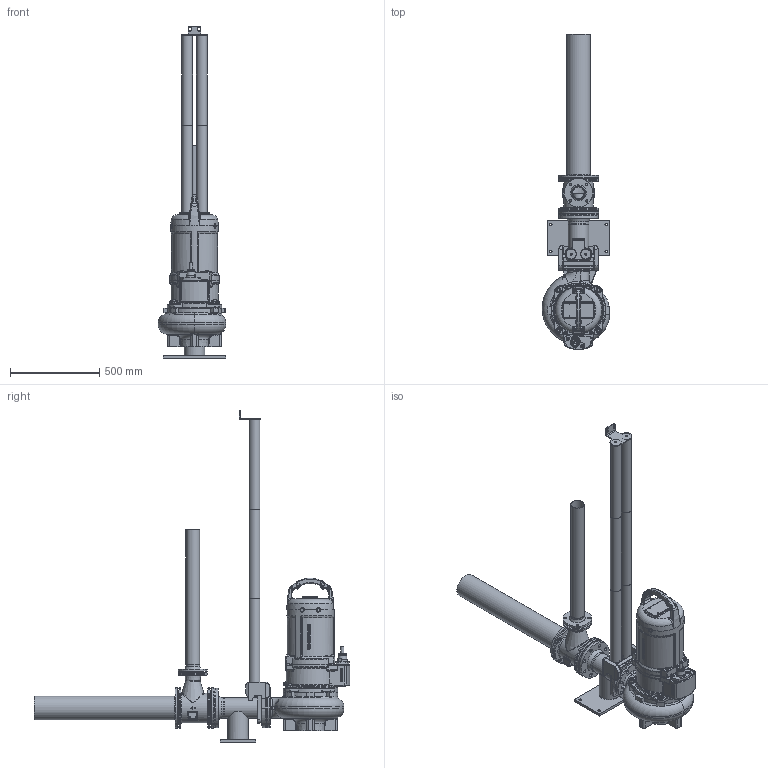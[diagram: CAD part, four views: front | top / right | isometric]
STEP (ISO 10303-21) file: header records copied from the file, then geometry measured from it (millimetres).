
FILE_DESCRIPTION(/* description */ (''),/* implementation_level */ '2;1');
FILE_NAME(/* name */ 'H:\3D\Projekte\@Wirbeljet\700 Amajet_2021_step\Amajet_V_Rail_KA_16.stp',/* time_stamp */ '2021-04-12T22:44:25+02:00',/* author */ ('emmrpat'),/* organization */ (''),/* preprocessor_version */ 'ST-DEVELOPER v18',/* originating_system */ 'Autodesk Inventor 2020',/* authorisation */ '');
FILE_SCHEMA (('AUTOMOTIVE_DESIGN { 1 0 10303 214 3 1 1 }'));
Length unit declared in the file: millimetre
Products named in the file (33): Amajet_V_Rail_KA_13; Dichtung1_DN100_5mm; Flansch_0W308059; 0W308365_Vari_01_Duese; Strahlrohr_133mm_800mm; 0W308365_Vari_01_Duese_1; Dichtung_DN100_5mm; Dichtung_DN65_4mm_110; 0W308366_800mm_Belueftung; 0W308366_800mm_Rohr; Vorschweißflansch_DN65_PN6; 0W382247_Mischkammer; Halterung KRT100-; KRT_100-250; UG155595214_01; ug1004874zmn001_01; ug1004383zmn001_01; ug1510147zmk001_01_BODY; ug1510095zmk001_01; ug1510137zmk001_01; ug1510136zmk001_01; ug1510110zmk001_01; UG154735011ZMM001_02; UG153885001ZMM001_01; ug1012584zmn001_01; ug1002091zmn001_01; UG154911611ZMM001_04; ISO 4032 - M16; ISO 7089 -  16; DIN 835 - M16 x 50; VX-Stuetzfuss_Stange; Konsole_Stange_82mm_einzeln; Rohr_Stangenfuehrung_500mm
Assembly tree (62 placements, depth 4):
  Amajet_V_Rail_KA_13
    Dichtung1_DN100_5mm
    Flansch_0W308059
    Dichtung_DN100_5mm  x2
    0W308365_Vari_01_Duese
    Strahlrohr_133mm_800mm
    0W308365_Vari_01_Duese_1
    Dichtung_DN65_4mm_110
    0W308366_800mm_Belueftung
      0W308366_800mm_Rohr
      Vorschweißflansch_DN65_PN6
    0W382247_Mischkammer
    Halterung KRT100-
    KRT_100-250
    UG155595214_01
      ug1004874zmn001_01  x4
      ug1004383zmn001_01  x2
      ug1510147zmk001_01_BODY
        ug1510095zmk001_01
        ug1510137zmk001_01  x12
        ug1510136zmk001_01
        ug1510110zmk001_01
      UG154735011ZMM001_02
      UG153885001ZMM001_01
      ug1012584zmn001_01
      ug1002091zmn001_01
      UG154911611ZMM001_04
      ISO 4032 - M16  x4
      ISO 7089 -  16  x4
      DIN 835 - M16 x 50  x4
    VX-Stuetzfuss_Stange
    Rohr_Stangenfuehrung_500mm  x6
    Konsole_Stange_82mm_einzeln
Bounding box: 378.15 x 1763.2 x 1857.15 mm (x, y, z)
Volume: 25650363.7 mm3; surface area: 6000586 mm2
Topology: 68 solids, 69 shells, 3012 faces, 7391 edges, 4537 vertices
Faces by surface type: plane 890, cylinder 867, bspline 688, torus 329, cone 142, sphere 96
Full cylindrical faces by diameter (mm): 3 x12, 3.05 x2, 3.3 x1, 4 x12, 5 x12, 6 x12, 6.8 x1, 7 x24, 8 x4, 8.5 x6, 10 x6, 11 x6, 12 x10, 13 x4, 13.835 x10, 14 x8, 15.25 x1, 16 x14, 16.662 x1, 17 x4, 17.1 x1, 17.5 x4, 18 x27, 22 x1, 23 x1, 30 x4, 34 x2, 37.5 x2, 41 x1, 50 x1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
Entity records: 126349 total; most frequent: CARTESIAN_POINT 59345, ORIENTED_EDGE 13746, DIRECTION 13181, EDGE_CURVE 6873, AXIS2_PLACEMENT_3D 5428, VERTEX_POINT 4274, EDGE_LOOP 3155, CIRCLE 2979
